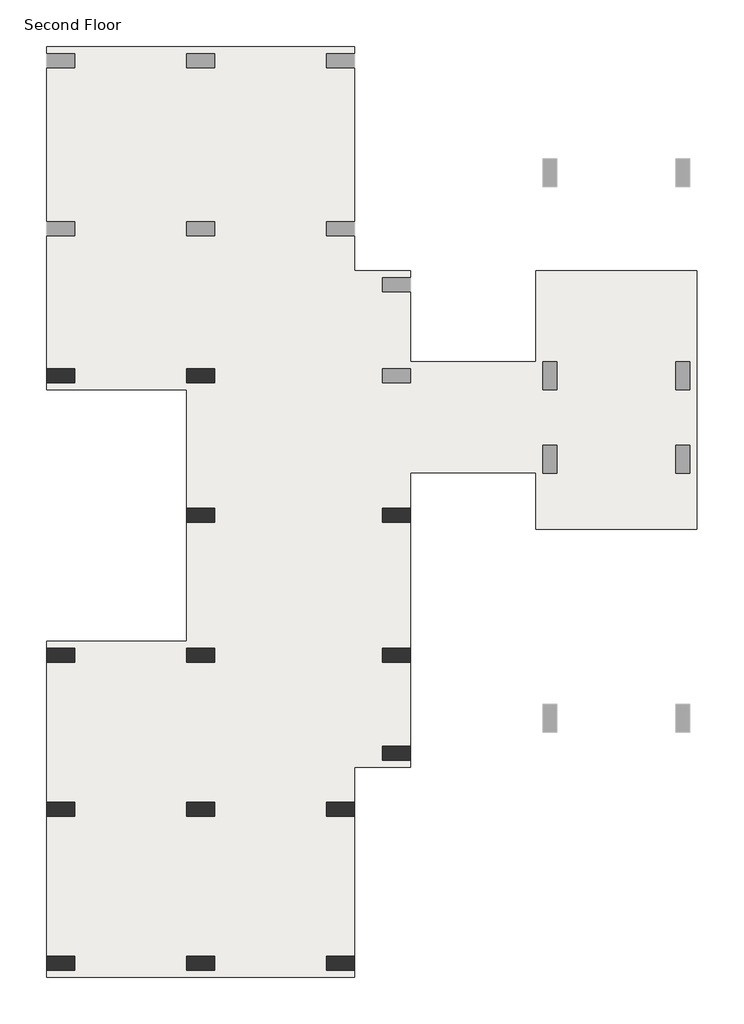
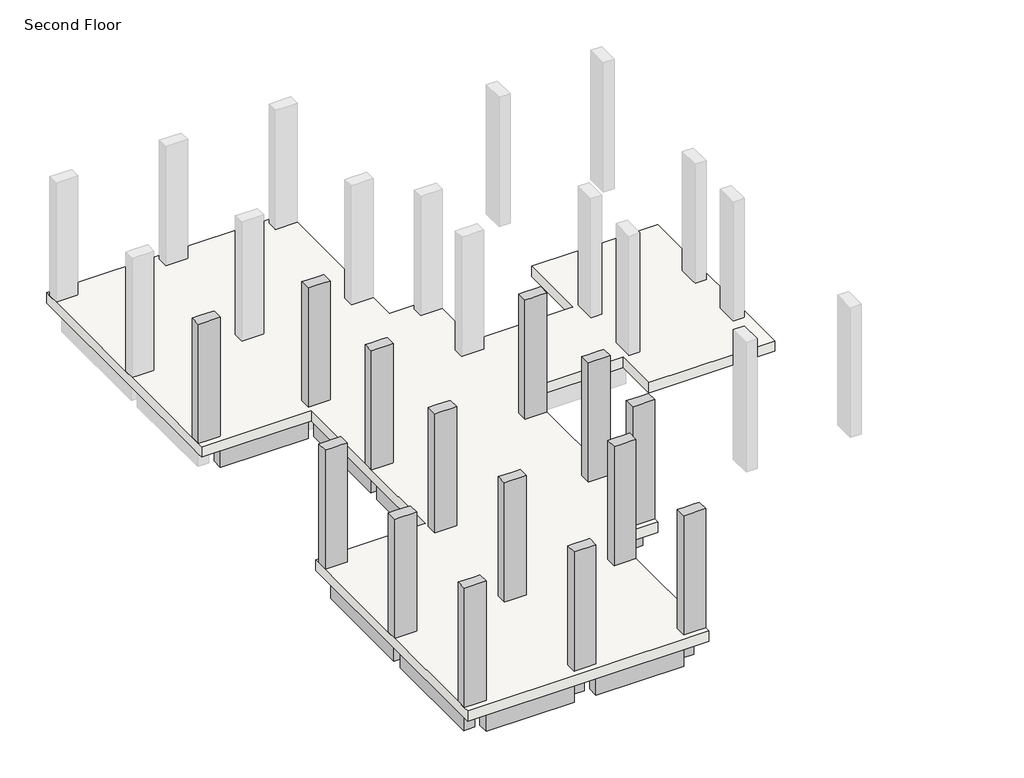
# One storey, part 1 of 2: 20 beams, 15 columns, 1 slab.
"""IFC4 building model written with IfcOpenShell, lengths in millimetres."""

import ifcopenshell
import ifcopenshell.guid

model = None  # the IFC model being written
_history = None  # IfcOwnerHistory: only IFC2X3 demands one
_inside = {}  # id of a spatial element -> (the spatial element, [elements in it])
_under = {}  # id of a project, library or spatial element -> (it, [spatial elements below it])
_declared = {}  # id of a project -> (the project, [libraries it declares])
_typed = {}  # id of a type object -> (the type object, [elements of that type])
_made_of = {}  # id of a material, layer set ... -> (it, [elements and type objects made of it])


def new_model(schema):
    """Start an empty IFC model of exactly this schema.

    Asked for "IFC4X3", IfcOpenShell would pick the latest addendum, in which some entities
    have other attributes; the version numbers below select the first issue.
    IFC2X3 requires an IfcOwnerHistory on every rooted entity: one is made here for all.
    """
    global model, _history
    if schema == "IFC4X3":
        model = ifcopenshell.file(schema_version=(4, 3, 0, 0))
    else:
        model = ifcopenshell.file(schema=schema)
    _inside.clear()
    _under.clear()
    _declared.clear()
    _typed.clear()
    _made_of.clear()
    _history = None
    if model.schema == "IFC2X3":
        org = make("IfcOrganization", Name="unknown")
        user = make(
            "IfcPersonAndOrganization",
            ThePerson=make("IfcPerson", FamilyName="unknown"),
            TheOrganization=org,
        )
        app = make(
            "IfcApplication",
            ApplicationDeveloper=org,
            Version="unknown",
            ApplicationFullName="unknown",
            ApplicationIdentifier="unknown",
        )
        _history = make(
            "IfcOwnerHistory",
            OwningUser=user,
            OwningApplication=app,
            ChangeAction="ADDED",
            CreationDate=0,
        )
    return model


def make(cls, **values):
    """One entity of the class cls with the attributes given. An attribute that is None is left unset."""
    return model.create_entity(
        cls, **{name: value for name, value in values.items() if value is not None}
    )


def rooted(cls, **values):
    """An entity with a GlobalId (a new one), such as an element, a storey or a relation."""
    return make(cls, GlobalId=ifcopenshell.guid.new(), OwnerHistory=_history, **values)


def si_unit(unit_type, name, prefix=None):
    """IfcSIUnit, for example si_unit("LENGTHUNIT", "METRE", prefix="MILLI")."""
    return make("IfcSIUnit", UnitType=unit_type, Prefix=prefix, Name=name)


def assignment(units):
    """IfcUnitAssignment: the units of a project."""
    return None if units is None else make("IfcUnitAssignment", Units=units)


def point(xyz):
    """IfcCartesianPoint."""
    return None if xyz is None else make("IfcCartesianPoint", Coordinates=xyz)


def direction(xyz):
    """IfcDirection."""
    return None if xyz is None else make("IfcDirection", DirectionRatios=xyz)


def frame(location, z_axis=None, x_axis=None):
    """IfcAxis2Placement3D, a coordinate frame: its origin and axes. An axis left out is left unset."""
    return make(
        "IfcAxis2Placement3D",
        Location=point(location),
        Axis=direction(z_axis),
        RefDirection=direction(x_axis),
    )


def origin():
    """The frame at (0, 0, 0) with its axes left unset."""
    return frame((0.0, 0.0, 0.0))


def place(relative_to, where):
    """IfcLocalPlacement: puts the frame where relative to a parent placement (None: the world)."""
    return make(
        "IfcLocalPlacement", PlacementRelTo=relative_to, RelativePlacement=where
    )


def context(
    kind, dimensions, precision=None, world=None, true_north=None, identifier=None
):
    """IfcGeometricRepresentationContext, for example the 3D "Model" context."""
    return make(
        "IfcGeometricRepresentationContext",
        ContextIdentifier=identifier,
        ContextType=kind,
        CoordinateSpaceDimension=dimensions,
        Precision=precision,
        WorldCoordinateSystem=world,
        TrueNorth=true_north,
    )


def project(units=None, contexts=None):
    """IfcProject with its units and contexts."""
    return rooted(
        "IfcProject",
        Name="project",
        RepresentationContexts=contexts,
        UnitsInContext=assignment(units),
    )


def spatial(cls, under=None, at=None, **own):
    """A site, building, storey or space (cls), placed at a placement, below another one or the project."""
    s = rooted(cls, ObjectPlacement=at, **own)
    if under is not None:
        _under.setdefault(under.id(), (under, []))[1].append(s)
    return s


def polyline(points):
    """IfcPolyline through the points."""
    return make("IfcPolyline", Points=[point(p) for p in points])


def outline(outer, holes=None, kind="AREA"):
    """IfcArbitraryClosedProfileDef: a profile drawn as a closed curve; with holes, ...WithVoids."""
    if holes is None:
        return make("IfcArbitraryClosedProfileDef", ProfileType=kind, OuterCurve=outer)
    return make(
        "IfcArbitraryProfileDefWithVoids",
        ProfileType=kind,
        OuterCurve=outer,
        InnerCurves=holes,
    )


def extrude(swept, where, along, depth):
    """IfcExtrudedAreaSolid: the profile swept, set in the frame where, extruded along a direction by depth."""
    return make(
        "IfcExtrudedAreaSolid",
        SweptArea=swept,
        Position=where,
        ExtrudedDirection=direction(along),
        Depth=depth,
    )


def faces_of(points, faces, orient=None, outer=None):
    """IfcFace entities. A face is a list of loops; a loop is a list of indices into points, from 0.

    orient and outer hold one flag for each loop. By default every Orientation is true, the
    first loop of a face is its IfcFaceOuterBound and the others are IfcFaceBound.
    """
    made = []
    for i, loops in enumerate(faces):
        bounds = []
        for j, loop in enumerate(loops):
            is_outer = j == 0 if outer is None else outer[i][j]
            bounds.append(
                make(
                    "IfcFaceOuterBound" if is_outer else "IfcFaceBound",
                    Bound=make("IfcPolyLoop", Polygon=[points[k] for k in loop]),
                    Orientation=True if orient is None else orient[i][j],
                )
            )
        made.append(make("IfcFace", Bounds=bounds))
    return made


def faceted_brep(points, faces, orient=None, outer=None, voids=None):
    """IfcFacetedBrep: a solid bounded by flat faces; with voids (closed shells), ...WithVoids."""
    shared = [point(p) for p in points]
    hull = make("IfcClosedShell", CfsFaces=faces_of(shared, faces, orient, outer))
    if voids is None:
        return make("IfcFacetedBrep", Outer=hull)
    return make(
        "IfcFacetedBrepWithVoids",
        Outer=hull,
        Voids=[
            make(cls, CfsFaces=faces_of(shared, fs, o, b)) for cls, fs, o, b in voids
        ],
    )


def shape(context_of_items, identifier, shape_type, items):
    """IfcShapeRepresentation: the items that make up one representation, for example the "Body"."""
    return make(
        "IfcShapeRepresentation",
        ContextOfItems=context_of_items,
        RepresentationIdentifier=identifier,
        RepresentationType=shape_type,
        Items=items,
    )


def made_of(thing, what):
    """Note that an element or type object is made of a material, layer set ...; save() writes the relation."""
    if what is not None:
        _made_of.setdefault(what.id(), (what, []))[1].append(thing)
    return thing


def element(
    cls,
    number,
    at=None,
    inside=None,
    cuts=None,
    type_object=None,
    material=None,
    context=None,
    identifier="Body",
    shape_type=None,
    held_by="IfcProductDefinitionShape",
    body=None,
    shapes=None,
    **own,
):
    """One element of the class cls, such as IfcWall. Its Tag is "e" and its number.

    at: its placement. inside: the storey or other place that contains it. cuts: it is an
    opening in that element (IfcRelVoidsElement). A single representation is given by context,
    identifier, shape_type and body (its items); several are given by shapes. held_by: the class
    of the entity that holds the representations. save() writes the other relations.
    """
    e = rooted(cls, Tag="e%d" % number, ObjectPlacement=at, **own)
    if body is not None:
        shapes = [shape(context, identifier, shape_type, body)]
    if shapes is not None:
        e.Representation = make(held_by, Representations=shapes)
    if inside is not None:
        _inside.setdefault(inside.id(), (inside, []))[1].append(e)
    if cuts is not None:
        rooted(
            "IfcRelVoidsElement", RelatingBuildingElement=cuts, RelatedOpeningElement=e
        )
    if type_object is not None:
        _typed.setdefault(type_object.id(), (type_object, []))[1].append(e)
    return made_of(e, material)


def aggregate(whole, parts):
    """IfcRelAggregates: a whole, such as a stair, and the parts it consists of."""
    return rooted("IfcRelAggregates", RelatingObject=whole, RelatedObjects=parts)


def save(model, path):
    """Write the relations noted so far, then the file.

    IfcRelAggregates (storeys below a building ...), IfcRelContainedInSpatialStructure (elements
    in a storey), IfcRelDefinesByType, IfcRelAssociatesMaterial and IfcRelDeclares: one each for
    every whole, place, type object, material and project.
    """
    for whole, parts in _under.values():
        aggregate(whole, parts)
    for where, things in _inside.values():
        rooted(
            "IfcRelContainedInSpatialStructure",
            RelatedElements=things,
            RelatingStructure=where,
        )
    for kind, things in _typed.values():
        rooted("IfcRelDefinesByType", RelatedObjects=things, RelatingType=kind)
    for what, things in _made_of.values():
        rooted("IfcRelAssociatesMaterial", RelatedObjects=things, RelatingMaterial=what)
    for by, libraries in _declared.values():
        rooted("IfcRelDeclares", RelatingContext=by, RelatedDefinitions=libraries)
    model.write(path)


model = new_model("IFC4")

# Units and contexts
model_context = context("Model", 3, world=origin())
ifc_project = project(units=[si_unit("LENGTHUNIT", "METRE", prefix="MILLI")], contexts=[model_context])

# Site, building, storey
site = spatial("IfcSite", under=ifc_project)
building = spatial("IfcBuilding", under=site)
storey = spatial("IfcBuildingStorey", under=building, Name="Second Floor", Elevation=3810.0)

# Beams
placement = place(None, origin())
element("IfcBeam", 1, ObjectType="Concrete-Rectangular Beam : 12 x 24", at=placement, inside=storey, context=model_context, shape_type="SweptSolid", body=[
    extrude(outline(polyline([(-8209.9554735, 4436.1867088), (-7905.1554735, 4436.1867088), (-7905.1554735, 1692.9867088), (-8209.9554735, 1692.9867088), (-8209.9554735, 4436.1867088)])), frame((0.0, 0.0, 2895.6), z_axis=(0.0, 0.0, 1.0), x_axis=(1.0, 0.0, 0.0)), (0.0, 0.0, 1.0), 609.6),
])
element("IfcBeam", 2, ObjectType="Concrete-Rectangular Beam : 12 x 24", at=placement, inside=storey, context=model_context, shape_type="SweptSolid", body=[
    extrude(outline(polyline([(-8209.9554735, 1388.1867088), (-7905.1554735, 1388.1867088), (-7905.1554735, -440.6132912), (-8209.9554735, -440.6132912), (-8209.9554735, 1388.1867088)])), frame((0.0, 0.0, 2895.6), z_axis=(0.0, 0.0, 1.0), x_axis=(1.0, 0.0, 0.0)), (0.0, 0.0, 1.0), 609.6),
])
element("IfcBeam", 3, ObjectType="Concrete-Rectangular Beam : 12 x 24", at=placement, inside=storey, context=model_context, shape_type="Brep", body=[
    faceted_brep([(-9429.1554735, -440.6132912, 3505.2), (-9429.1554735, -745.4132912, 3505.2), (-9124.3554735, -745.4132912, 3505.2), (-8362.3554735, -745.4132912, 3505.2), (-8362.3554735, -440.6132912, 3505.2), (-9429.1554735, -440.6132912, 2895.6), (-8362.3554735, -440.6132912, 2895.6), (-9429.1554735, -745.4132912, 2895.6), (-8362.3554735, -745.4132912, 2895.6), (-9124.3554735, -745.4132912, 2895.6)], [[[0, 1, 2, 3, 4]], [[5, 0, 4, 6]], [[7, 5, 6, 8, 9]], [[1, 7, 9, 8, 3, 2]], [[4, 3, 8, 6]], [[1, 0, 5, 7]]]),
])
element("IfcBeam", 4, ObjectType="Concrete-Rectangular Beam : 12 x 24", at=placement, inside=storey, context=model_context, shape_type="SweptSolid", body=[
    extrude(outline(polyline([(-9429.1554735, -745.4132912), (-9124.3554735, -745.4132912), (-9124.3554735, -1659.8132912), (-9429.1554735, -1659.8132912), (-9429.1554735, -745.4132912)])), frame((0.0, 0.0, 2895.6), z_axis=(0.0, 0.0, 1.0), x_axis=(1.0, 0.0, 0.0)), (0.0, 0.0, 1.0), 609.6),
])
element("IfcBeam", 5, ObjectType="Concrete-Rectangular Beam : 12 x 24", at=placement, inside=storey, context=model_context, shape_type="SweptSolid", body=[
    extrude(outline(polyline([(-9429.1554735, -1964.6132912), (-9124.3554735, -1964.6132912), (-9124.3554735, -5012.6132912), (-9429.1554735, -5012.6132912), (-9429.1554735, -1964.6132912)])), frame((0.0, 0.0, 2895.6), z_axis=(0.0, 0.0, 1.0), x_axis=(1.0, 0.0, 0.0)), (0.0, 0.0, 1.0), 609.6),
])
element("IfcBeam", 6, ObjectType="Concrete-Rectangular Beam : 12 x 24", at=placement, inside=storey, context=model_context, shape_type="SweptSolid", body=[
    extrude(outline(polyline([(-12019.9554735, -5317.4132912), (-12019.9554735, -5012.6132912), (-9581.5554735, -5012.6132912), (-9581.5554735, -5317.4132912), (-12019.9554735, -5317.4132912)])), frame((0.0, 0.0, 2895.6), z_axis=(0.0, 0.0, 1.0), x_axis=(1.0, 0.0, 0.0)), (0.0, 0.0, 1.0), 609.6),
])
element("IfcBeam", 7, ObjectType="Concrete-Rectangular Beam : 12 x 24", at=placement, inside=storey, context=model_context, shape_type="SweptSolid", body=[
    extrude(outline(polyline([(-12629.5554735, -5012.6132912), (-12629.5554735, -5317.4132912), (-15067.9554735, -5317.4132912), (-15067.9554735, -5012.6132912), (-12629.5554735, -5012.6132912)])), frame((0.0, 0.0, 2895.6), z_axis=(0.0, 0.0, 1.0), x_axis=(1.0, 0.0, 0.0)), (0.0, 0.0, 1.0), 609.6),
])
element("IfcBeam", 8, ObjectType="Concrete-Rectangular Beam : 12 x 24", at=placement, inside=storey, context=model_context, shape_type="SweptSolid", body=[
    extrude(outline(polyline([(-15220.3554735, -5012.6132912), (-15525.1554735, -5012.6132912), (-15525.1554735, -1964.6132912), (-15220.3554735, -1964.6132912), (-15220.3554735, -5012.6132912)])), frame((0.0, 0.0, 2895.6), z_axis=(0.0, 0.0, 1.0), x_axis=(1.0, 0.0, 0.0)), (0.0, 0.0, 1.0), 609.6),
])
element("IfcBeam", 9, ObjectType="Concrete-Rectangular Beam : 12 x 24", at=placement, inside=storey, context=model_context, shape_type="SweptSolid", body=[
    extrude(outline(polyline([(-15220.3554735, -1659.8132912), (-15525.1554735, -1659.8132912), (-15525.1554735, 1388.1867088), (-15220.3554735, 1388.1867088), (-15220.3554735, -1659.8132912)])), frame((0.0, 0.0, 2895.6), z_axis=(0.0, 0.0, 1.0), x_axis=(1.0, 0.0, 0.0)), (0.0, 0.0, 1.0), 609.6),
])
element("IfcBeam", 10, ObjectType="Concrete-Rectangular Beam : 12 x 24", at=placement, inside=storey, context=model_context, shape_type="SweptSolid", body=[
    extrude(outline(polyline([(-12477.1554735, 7484.1867088), (-12172.3554735, 7484.1867088), (-12172.3554735, 4740.9867088), (-12477.1554735, 4740.9867088), (-12477.1554735, 7484.1867088)])), frame((0.0, 0.0, 2895.6), z_axis=(0.0, 0.0, 1.0), x_axis=(1.0, 0.0, 0.0)), (0.0, 0.0, 1.0), 609.6),
])
element("IfcBeam", 11, ObjectType="Concrete-Rectangular Beam : 12 x 24", at=placement, inside=storey, context=model_context, shape_type="SweptSolid", body=[
    extrude(outline(polyline([(-12477.1554735, 4436.1867088), (-12172.3554735, 4436.1867088), (-12172.3554735, 1692.9867088), (-12477.1554735, 1692.9867088), (-12477.1554735, 4436.1867088)])), frame((0.0, 0.0, 2895.6), z_axis=(0.0, 0.0, 1.0), x_axis=(1.0, 0.0, 0.0)), (0.0, 0.0, 1.0), 609.6),
])
element("IfcBeam", 12, ObjectType="Concrete-Rectangular Beam : 12 x 24", at=placement, inside=storey, context=model_context, shape_type="SweptSolid", body=[
    extrude(outline(polyline([(-12477.1554735, 1388.1867088), (-12172.3554735, 1388.1867088), (-12172.3554735, -1659.8132912), (-12477.1554735, -1659.8132912), (-12477.1554735, 1388.1867088)])), frame((0.0, 0.0, 2895.6), z_axis=(0.0, 0.0, 1.0), x_axis=(1.0, 0.0, 0.0)), (0.0, 0.0, 1.0), 609.6),
])
element("IfcBeam", 13, ObjectType="Concrete-Rectangular Beam : 12 x 24", at=placement, inside=storey, context=model_context, shape_type="SweptSolid", body=[
    extrude(outline(polyline([(-12172.3554735, -5012.6132912), (-12477.1554735, -5012.6132912), (-12477.1554735, -1964.6132912), (-12172.3554735, -1964.6132912), (-12172.3554735, -5012.6132912)])), frame((0.0, 0.0, 2895.6), z_axis=(0.0, 0.0, 1.0), x_axis=(1.0, 0.0, 0.0)), (0.0, 0.0, 1.0), 609.6),
])
element("IfcBeam", 14, ObjectType="Concrete-Rectangular Beam : 12 x 24", at=placement, inside=storey, context=model_context, shape_type="SweptSolid", body=[
    extrude(outline(polyline([(-15067.9554735, 7484.1867088), (-15067.9554735, 7788.9867088), (-12629.5554735, 7788.9867088), (-12629.5554735, 7484.1867088), (-15067.9554735, 7484.1867088)])), frame((0.0, 0.0, 2895.6), z_axis=(0.0, 0.0, 1.0), x_axis=(1.0, 0.0, 0.0)), (0.0, 0.0, 1.0), 609.6),
])
element("IfcBeam", 15, ObjectType="Concrete-Rectangular Beam : 12 x 24", at=placement, inside=storey, context=model_context, shape_type="SweptSolid", body=[
    extrude(outline(polyline([(-12019.9554735, 1388.1867088), (-12019.9554735, 1692.9867088), (-8362.3554735, 1692.9867088), (-8362.3554735, 1388.1867088), (-12019.9554735, 1388.1867088)])), frame((0.0, 0.0, 2895.6), z_axis=(0.0, 0.0, 1.0), x_axis=(1.0, 0.0, 0.0)), (0.0, 0.0, 1.0), 609.6),
])
element("IfcBeam", 16, ObjectType="Concrete-Rectangular Beam : 12 x 24", at=placement, inside=storey, context=model_context, shape_type="SweptSolid", body=[
    extrude(outline(polyline([(-12629.5554735, -1659.8132912), (-12629.5554735, -1964.6132912), (-15067.9554735, -1964.6132912), (-15067.9554735, -1659.8132912), (-12629.5554735, -1659.8132912)])), frame((0.0, 0.0, 2895.6), z_axis=(0.0, 0.0, 1.0), x_axis=(1.0, 0.0, 0.0)), (0.0, 0.0, 1.0), 609.6),
])
element("IfcBeam", 17, ObjectType="Concrete-Rectangular Beam : 12 x 24", at=placement, inside=storey, context=model_context, shape_type="SweptSolid", body=[
    extrude(outline(polyline([(-12629.5554735, 1692.9867088), (-12629.5554735, 1388.1867088), (-15067.9554735, 1388.1867088), (-15067.9554735, 1692.9867088), (-12629.5554735, 1692.9867088)])), frame((0.0, 0.0, 2895.6), z_axis=(0.0, 0.0, 1.0), x_axis=(1.0, 0.0, 0.0)), (0.0, 0.0, 1.0), 609.6),
])
element("IfcBeam", 18, ObjectType="Concrete-Rectangular Beam : 12 x 24", at=placement, inside=storey, context=model_context, shape_type="SweptSolid", body=[
    extrude(outline(polyline([(-12019.9554735, -1964.6132912), (-12019.9554735, -1659.8132912), (-9581.5554735, -1659.8132912), (-9581.5554735, -1964.6132912), (-12019.9554735, -1964.6132912)])), frame((0.0, 0.0, 2895.6), z_axis=(0.0, 0.0, 1.0), x_axis=(1.0, 0.0, 0.0)), (0.0, 0.0, 1.0), 609.6),
])
element("IfcBeam", 19, ObjectType="Concrete-Rectangular Beam : 12 x 24", at=placement, inside=storey, context=model_context, shape_type="SweptSolid", body=[
    extrude(outline(polyline([(-8362.3554735, 7788.9867088), (-8362.3554735, 7484.1867088), (-12019.9554735, 7484.1867088), (-12019.9554735, 7788.9867088), (-8362.3554735, 7788.9867088)])), frame((0.0, 0.0, 2895.6), z_axis=(0.0, 0.0, 1.0), x_axis=(1.0, 0.0, 0.0)), (0.0, 0.0, 1.0), 609.6),
])
element("IfcBeam", 20, ObjectType="Concrete-Rectangular Beam : 12 x 24", at=placement, inside=storey, context=model_context, shape_type="SweptSolid", body=[
    extrude(outline(polyline([(-12019.9554735, 4436.1867088), (-12019.9554735, 4740.9867088), (-8362.3554735, 4740.9867088), (-8362.3554735, 4436.1867088), (-12019.9554735, 4436.1867088)])), frame((0.0, 0.0, 2895.6), z_axis=(0.0, 0.0, 1.0), x_axis=(1.0, 0.0, 0.0)), (0.0, 0.0, 1.0), 609.6),
])

# Columns
element("IfcColumn", 21, ObjectType="Concrete-Rectangular-Column : 12 x 24", at=placement, inside=storey, context=model_context, shape_type="Brep", body=[
    faceted_brep([(-15677.5554735, 7788.9867088, 3810.0), (-15067.9554735, 7788.9867088, 3810.0), (-15067.9554735, 7484.1867088, 3810.0), (-15677.5554735, 7484.1867088, 3810.0), (-15677.5554735, 7788.9867088, 7315.2), (-15525.1554735, 7788.9867088, 7315.2), (-15220.3554735, 7788.9867088, 7315.2), (-15067.9554735, 7788.9867088, 7315.2), (-15067.9554735, 7788.9867088, 6705.6), (-15067.9554735, 7484.1867088, 7315.2), (-15067.9554735, 7484.1867088, 6705.6), (-15677.5554735, 7484.1867088, 7315.2)], [[[0, 1, 2, 3]], [[4, 5, 6, 7, 8, 1, 0]], [[7, 9, 10, 2, 1, 8]], [[9, 11, 3, 2, 10]], [[11, 4, 0, 3]], [[4, 11, 9, 7, 6, 5]]]),
])
element("IfcColumn", 22, ObjectType="Concrete-Rectangular-Column : 12 x 24", at=placement, inside=storey, context=model_context, shape_type="Brep", body=[
    faceted_brep([(-12629.5554735, 7788.9867088, 3810.0), (-12019.9554735, 7788.9867088, 3810.0), (-12019.9554735, 7484.1867088, 3810.0), (-12629.5554735, 7484.1867088, 3810.0), (-12629.5554735, 7788.9867088, 7315.2), (-12477.1554735, 7788.9867088, 7315.2), (-12172.3554735, 7788.9867088, 7315.2), (-12019.9554735, 7788.9867088, 7315.2), (-12019.9554735, 7788.9867088, 6705.6), (-12629.5554735, 7788.9867088, 6705.6), (-12019.9554735, 7484.1867088, 7315.2), (-12019.9554735, 7484.1867088, 6705.6), (-12172.3554735, 7484.1867088, 7315.2), (-12477.1554735, 7484.1867088, 7315.2), (-12629.5554735, 7484.1867088, 7315.2), (-12629.5554735, 7484.1867088, 6705.6)], [[[0, 1, 2, 3]], [[4, 5, 6, 7, 8, 1, 0, 9]], [[7, 10, 11, 2, 1, 8]], [[10, 12, 13, 14, 15, 3, 2, 11]], [[14, 4, 9, 0, 3, 15]], [[4, 14, 13, 12, 10, 7, 6, 5]]]),
])
element("IfcColumn", 23, ObjectType="Concrete-Rectangular-Column : 12 x 24", at=placement, inside=storey, context=model_context, shape_type="Brep", body=[
    faceted_brep([(-12629.5554735, 4740.9867088, 3810.0), (-12019.9554735, 4740.9867088, 3810.0), (-12019.9554735, 4436.1867088, 3810.0), (-12629.5554735, 4436.1867088, 3810.0), (-12629.5554735, 4740.9867088, 7315.2), (-12477.1554735, 4740.9867088, 7315.2), (-12172.3554735, 4740.9867088, 7315.2), (-12019.9554735, 4740.9867088, 7315.2), (-12019.9554735, 4740.9867088, 6705.6), (-12019.9554735, 4436.1867088, 7315.2), (-12019.9554735, 4436.1867088, 6705.6), (-12172.3554735, 4436.1867088, 7315.2), (-12477.1554735, 4436.1867088, 7315.2), (-12629.5554735, 4436.1867088, 7315.2)], [[[0, 1, 2, 3]], [[4, 5, 6, 7, 8, 1, 0]], [[7, 9, 10, 2, 1, 8]], [[9, 11, 12, 13, 3, 2, 10]], [[13, 4, 0, 3]], [[4, 13, 12, 11, 9, 7, 6, 5]]]),
])
element("IfcColumn", 24, ObjectType="Concrete-Rectangular-Column : 12 x 24", at=placement, inside=storey, context=model_context, shape_type="Brep", body=[
    faceted_brep([(-12629.5554735, 1692.9867088, 3810.0), (-12019.9554735, 1692.9867088, 3810.0), (-12019.9554735, 1388.1867088, 3810.0), (-12629.5554735, 1388.1867088, 3810.0), (-12629.5554735, 1692.9867088, 7315.2), (-12477.1554735, 1692.9867088, 7315.2), (-12172.3554735, 1692.9867088, 7315.2), (-12019.9554735, 1692.9867088, 7315.2), (-12019.9554735, 1692.9867088, 6705.6), (-12629.5554735, 1692.9867088, 6705.6), (-12019.9554735, 1388.1867088, 7315.2), (-12019.9554735, 1388.1867088, 6705.6), (-12172.3554735, 1388.1867088, 7315.2), (-12477.1554735, 1388.1867088, 7315.2), (-12629.5554735, 1388.1867088, 7315.2), (-12629.5554735, 1388.1867088, 6705.6)], [[[0, 1, 2, 3]], [[4, 5, 6, 7, 8, 1, 0, 9]], [[7, 10, 11, 2, 1, 8]], [[10, 12, 13, 14, 15, 3, 2, 11]], [[14, 4, 9, 0, 3, 15]], [[4, 14, 13, 12, 10, 7, 6, 5]]]),
])
element("IfcColumn", 25, ObjectType="Concrete-Rectangular-Column : 12 x 24", at=placement, inside=storey, context=model_context, shape_type="Brep", body=[
    faceted_brep([(-12629.5554735, -1659.8132912, 3810.0), (-12019.9554735, -1659.8132912, 3810.0), (-12019.9554735, -1964.6132912, 3810.0), (-12629.5554735, -1964.6132912, 3810.0), (-12629.5554735, -1659.8132912, 7315.2), (-12477.1554735, -1659.8132912, 7315.2), (-12172.3554735, -1659.8132912, 7315.2), (-12019.9554735, -1659.8132912, 7315.2), (-12019.9554735, -1659.8132912, 6705.6), (-12629.5554735, -1659.8132912, 6705.6), (-12019.9554735, -1964.6132912, 7315.2), (-12019.9554735, -1964.6132912, 6705.6), (-12172.3554735, -1964.6132912, 7315.2), (-12477.1554735, -1964.6132912, 7315.2), (-12629.5554735, -1964.6132912, 7315.2), (-12629.5554735, -1964.6132912, 6705.6)], [[[0, 1, 2, 3]], [[4, 5, 6, 7, 8, 1, 0, 9]], [[7, 10, 11, 2, 1, 8]], [[10, 12, 13, 14, 15, 3, 2, 11]], [[14, 4, 9, 0, 3, 15]], [[4, 14, 13, 12, 10, 7, 6, 5]]]),
])
element("IfcColumn", 26, ObjectType="Concrete-Rectangular-Column : 12 x 24", at=placement, inside=storey, context=model_context, shape_type="Brep", body=[
    faceted_brep([(-12629.5554735, -5012.6132912, 3810.0), (-12019.9554735, -5012.6132912, 3810.0), (-12019.9554735, -5317.4132912, 3810.0), (-12629.5554735, -5317.4132912, 3810.0), (-12629.5554735, -5012.6132912, 7315.2), (-12477.1554735, -5012.6132912, 7315.2), (-12172.3554735, -5012.6132912, 7315.2), (-12019.9554735, -5012.6132912, 7315.2), (-12019.9554735, -5012.6132912, 6705.6), (-12629.5554735, -5012.6132912, 6705.6), (-12019.9554735, -5317.4132912, 7315.2), (-12019.9554735, -5317.4132912, 6705.6), (-12629.5554735, -5317.4132912, 7315.2), (-12629.5554735, -5317.4132912, 6705.6)], [[[0, 1, 2, 3]], [[4, 5, 6, 7, 8, 1, 0, 9]], [[7, 10, 11, 2, 1, 8]], [[10, 12, 13, 3, 2, 11]], [[12, 4, 9, 0, 3, 13]], [[4, 12, 10, 7, 6, 5]]]),
])
element("IfcColumn", 27, ObjectType="Concrete-Rectangular-Column : 12 x 24", at=placement, inside=storey, context=model_context, shape_type="Brep", body=[
    faceted_brep([(-15677.5554735, -1659.8132912, 3810.0), (-15067.9554735, -1659.8132912, 3810.0), (-15067.9554735, -1964.6132912, 3810.0), (-15677.5554735, -1964.6132912, 3810.0), (-15677.5554735, -1659.8132912, 7315.2), (-15525.1554735, -1659.8132912, 7315.2), (-15220.3554735, -1659.8132912, 7315.2), (-15067.9554735, -1659.8132912, 7315.2), (-15067.9554735, -1659.8132912, 6705.6), (-15067.9554735, -1964.6132912, 7315.2), (-15067.9554735, -1964.6132912, 6705.6), (-15220.3554735, -1964.6132912, 7315.2), (-15525.1554735, -1964.6132912, 7315.2), (-15677.5554735, -1964.6132912, 7315.2)], [[[0, 1, 2, 3]], [[4, 5, 6, 7, 8, 1, 0]], [[7, 9, 10, 2, 1, 8]], [[9, 11, 12, 13, 3, 2, 10]], [[13, 4, 0, 3]], [[4, 13, 12, 11, 9, 7, 6, 5]]]),
])
element("IfcColumn", 28, ObjectType="Concrete-Rectangular-Column : 12 x 24", at=placement, inside=storey, context=model_context, shape_type="Brep", body=[
    faceted_brep([(-15677.5554735, -5012.6132912, 3810.0), (-15067.9554735, -5012.6132912, 3810.0), (-15067.9554735, -5317.4132912, 3810.0), (-15677.5554735, -5317.4132912, 3810.0), (-15677.5554735, -5012.6132912, 7315.2), (-15525.1554735, -5012.6132912, 7315.2), (-15220.3554735, -5012.6132912, 7315.2), (-15067.9554735, -5012.6132912, 7315.2), (-15067.9554735, -5012.6132912, 6705.6), (-15067.9554735, -5317.4132912, 7315.2), (-15067.9554735, -5317.4132912, 6705.6), (-15677.5554735, -5317.4132912, 7315.2)], [[[0, 1, 2, 3]], [[4, 5, 6, 7, 8, 1, 0]], [[7, 9, 10, 2, 1, 8]], [[9, 11, 3, 2, 10]], [[11, 4, 0, 3]], [[4, 11, 9, 7, 6, 5]]]),
])
element("IfcColumn", 29, ObjectType="Concrete-Rectangular-Column : 12 x 24", at=placement, inside=storey, context=model_context, shape_type="Brep", body=[
    faceted_brep([(-15677.5554735, 1692.9867088, 3810.0), (-15067.9554735, 1692.9867088, 3810.0), (-15067.9554735, 1388.1867088, 3810.0), (-15677.5554735, 1388.1867088, 3810.0), (-15677.5554735, 1692.9867088, 7315.2), (-15067.9554735, 1692.9867088, 7315.2), (-15067.9554735, 1692.9867088, 6705.6), (-15067.9554735, 1388.1867088, 7315.2), (-15067.9554735, 1388.1867088, 6705.6), (-15220.3554735, 1388.1867088, 7315.2), (-15525.1554735, 1388.1867088, 7315.2), (-15677.5554735, 1388.1867088, 7315.2)], [[[0, 1, 2, 3]], [[4, 5, 6, 1, 0]], [[5, 7, 8, 2, 1, 6]], [[7, 9, 10, 11, 3, 2, 8]], [[11, 4, 0, 3]], [[4, 11, 10, 9, 7, 5]]]),
])
element("IfcColumn", 30, ObjectType="Concrete-Rectangular-Column : 12 x 24", at=placement, inside=storey, context=model_context, shape_type="Brep", body=[
    faceted_brep([(-8362.3554735, 4740.9867088, 3810.0), (-7752.7554735, 4740.9867088, 3810.0), (-7752.7554735, 4436.1867088, 3810.0), (-8362.3554735, 4436.1867088, 3810.0), (-8362.3554735, 4740.9867088, 7315.2), (-8209.9554735, 4740.9867088, 7315.2), (-7905.1554735, 4740.9867088, 7315.2), (-7752.7554735, 4740.9867088, 7315.2), (-8362.3554735, 4740.9867088, 6705.6), (-7752.7554735, 4436.1867088, 7315.2), (-7905.1554735, 4436.1867088, 7315.2), (-8209.9554735, 4436.1867088, 7315.2), (-8362.3554735, 4436.1867088, 7315.2), (-8362.3554735, 4436.1867088, 6705.6)], [[[0, 1, 2, 3]], [[4, 5, 6, 7, 1, 0, 8]], [[7, 9, 2, 1]], [[9, 10, 11, 12, 13, 3, 2]], [[12, 4, 8, 0, 3, 13]], [[4, 12, 11, 10, 9, 7, 6, 5]]]),
])
element("IfcColumn", 31, ObjectType="Concrete-Rectangular-Column : 12 x 24", at=placement, inside=storey, context=model_context, shape_type="Brep", body=[
    faceted_brep([(-8362.3554735, 1692.9867088, 3810.0), (-7752.7554735, 1692.9867088, 3810.0), (-7752.7554735, 1388.1867088, 3810.0), (-8362.3554735, 1388.1867088, 3810.0), (-8362.3554735, 1692.9867088, 7315.2), (-8209.9554735, 1692.9867088, 7315.2), (-7905.1554735, 1692.9867088, 7315.2), (-7752.7554735, 1692.9867088, 7315.2), (-8362.3554735, 1692.9867088, 6705.6), (-7752.7554735, 1388.1867088, 7315.2), (-7905.1554735, 1388.1867088, 7315.2), (-8209.9554735, 1388.1867088, 7315.2), (-8362.3554735, 1388.1867088, 7315.2), (-8362.3554735, 1388.1867088, 6705.6)], [[[0, 1, 2, 3]], [[4, 5, 6, 7, 1, 0, 8]], [[7, 9, 2, 1]], [[9, 10, 11, 12, 13, 3, 2]], [[12, 4, 8, 0, 3, 13]], [[4, 12, 11, 10, 9, 7, 6, 5]]]),
])
element("IfcColumn", 32, ObjectType="Concrete-Rectangular-Column : 12 x 24", at=placement, inside=storey, context=model_context, shape_type="Brep", body=[
    faceted_brep([(-9581.5554735, -1659.8132912, 3810.0), (-8971.9554735, -1659.8132912, 3810.0), (-8971.9554735, -1964.6132912, 3810.0), (-9581.5554735, -1964.6132912, 3810.0), (-9581.5554735, -1659.8132912, 7315.2), (-9429.1554735, -1659.8132912, 7315.2), (-9124.3554735, -1659.8132912, 7315.2), (-8971.9554735, -1659.8132912, 7315.2), (-9581.5554735, -1659.8132912, 6705.6), (-8971.9554735, -1964.6132912, 7315.2), (-9124.3554735, -1964.6132912, 7315.2), (-9429.1554735, -1964.6132912, 7315.2), (-9581.5554735, -1964.6132912, 7315.2), (-9581.5554735, -1964.6132912, 6705.6)], [[[0, 1, 2, 3]], [[4, 5, 6, 7, 1, 0, 8]], [[7, 9, 2, 1]], [[9, 10, 11, 12, 13, 3, 2]], [[12, 4, 8, 0, 3, 13]], [[4, 12, 11, 10, 9, 7, 6, 5]]]),
])
element("IfcColumn", 33, ObjectType="Concrete-Rectangular-Column : 12 x 24", at=placement, inside=storey, context=model_context, shape_type="Brep", body=[
    faceted_brep([(-9581.5554735, -5012.6132912, 3810.0), (-8971.9554735, -5012.6132912, 3810.0), (-8971.9554735, -5317.4132912, 3810.0), (-9581.5554735, -5317.4132912, 3810.0), (-9581.5554735, -5012.6132912, 7315.2), (-9429.1554735, -5012.6132912, 7315.2), (-9124.3554735, -5012.6132912, 7315.2), (-8971.9554735, -5012.6132912, 7315.2), (-9581.5554735, -5012.6132912, 6705.6), (-8971.9554735, -5317.4132912, 7315.2), (-9581.5554735, -5317.4132912, 7315.2), (-9581.5554735, -5317.4132912, 6705.6)], [[[0, 1, 2, 3]], [[4, 5, 6, 7, 1, 0, 8]], [[7, 9, 2, 1]], [[9, 10, 11, 3, 2]], [[10, 4, 8, 0, 3, 11]], [[4, 10, 9, 7, 6, 5]]]),
])
element("IfcColumn", 34, ObjectType="Concrete-Rectangular-Column : 12 x 24", at=placement, inside=storey, context=model_context, shape_type="Brep", body=[
    faceted_brep([(-8362.3554735, -440.6132912, 3810.0), (-7752.7554735, -440.6132912, 3810.0), (-7752.7554735, -745.4132912, 3810.0), (-8362.3554735, -745.4132912, 3810.0), (-8362.3554735, -440.6132912, 7315.2), (-8209.9554735, -440.6132912, 7315.2), (-7905.1554735, -440.6132912, 7315.2), (-7752.7554735, -440.6132912, 7315.2), (-8362.3554735, -440.6132912, 6705.6), (-7752.7554735, -745.4132912, 7315.2), (-8362.3554735, -745.4132912, 7315.2), (-8362.3554735, -745.4132912, 6705.6)], [[[0, 1, 2, 3]], [[4, 5, 6, 7, 1, 0, 8]], [[7, 9, 2, 1]], [[9, 10, 11, 3, 2]], [[10, 4, 8, 0, 3, 11]], [[4, 10, 9, 7, 6, 5]]]),
])
element("IfcColumn", 35, ObjectType="Concrete-Rectangular-Column : 12 x 24", at=placement, inside=storey, context=model_context, shape_type="Brep", body=[
    faceted_brep([(-12629.5554735, 7788.9867088, 3810.0), (-12019.9554735, 7788.9867088, 3810.0), (-12019.9554735, 7484.1867088, 3810.0), (-12629.5554735, 7484.1867088, 3810.0), (-12629.5554735, 7788.9867088, 7315.2), (-12477.1554735, 7788.9867088, 7315.2), (-12172.3554735, 7788.9867088, 7315.2), (-12019.9554735, 7788.9867088, 7315.2), (-12019.9554735, 7788.9867088, 6705.6), (-12629.5554735, 7788.9867088, 6705.6), (-12019.9554735, 7484.1867088, 7315.2), (-12019.9554735, 7484.1867088, 6705.6), (-12172.3554735, 7484.1867088, 7315.2), (-12477.1554735, 7484.1867088, 7315.2), (-12629.5554735, 7484.1867088, 7315.2), (-12629.5554735, 7484.1867088, 6705.6)], [[[0, 1, 2, 3]], [[4, 5, 6, 7, 8, 1, 0, 9]], [[7, 10, 11, 2, 1, 8]], [[10, 12, 13, 14, 15, 3, 2, 11]], [[14, 4, 9, 0, 3, 15]], [[4, 14, 13, 12, 10, 7, 6, 5]]]),
])

# Slab
element("IfcSlab", 36, ObjectType="Generic - 12\"", at=placement, inside=storey, context=model_context, shape_type="Brep", body=[
    faceted_brep([(-8971.9554735, 14799.3867088, 3505.2), (-8971.9554735, 14646.9867088, 3505.2), (-8971.9554735, 14342.1867088, 3505.2), (-8971.9554735, 10989.3867088, 3505.2), (-8971.9554735, 10684.5867088, 3505.2), (-8971.9554735, 9922.5867088, 3505.2), (-7752.7554735, 9922.5867088, 3505.2), (-7752.7554735, 9770.1867088, 3505.2), (-7752.7554735, 9465.3867088, 3505.2), (-7752.7554735, 7941.3867088, 3505.2), (-5009.5554735, 7941.3867088, 3505.2), (-5009.5554735, 9922.5867088, 3505.2), (-1504.3554735, 9922.5867088, 3505.2), (-1504.3554735, 4283.7867088, 3505.2), (-5009.5554735, 4283.7867088, 3505.2), (-5009.5554735, 5516.5265407, 3505.2), (-7752.7554735, 5516.5265407, 3505.2), (-7752.7554735, 4740.9867088, 3505.2), (-7752.7554735, 4436.1867088, 3505.2), (-7752.7554735, 1692.9867088, 3505.2), (-7752.7554735, 1388.1867088, 3505.2), (-7752.7554735, -440.6132912, 3505.2), (-7752.7554735, -745.4132912, 3505.2), (-7752.7554735, -897.8132912, 3505.2), (-8971.9554735, -897.8132912, 3505.2), (-8971.9554735, -1659.8132912, 3505.2), (-8971.9554735, -1964.6132912, 3505.2), (-8971.9554735, -5012.6132912, 3505.2), (-8971.9554735, -5317.4132912, 3505.2), (-8971.9554735, -5469.8132912, 3505.2), (-15677.5554735, -5469.8132912, 3505.2), (-15677.5554735, -5317.4132912, 3505.2), (-15677.5554735, -5012.6132912, 3505.2), (-15677.5554735, -1964.6132912, 3505.2), (-15677.5554735, -1659.8132912, 3505.2), (-15677.5554735, 1388.1867088, 3505.2), (-15677.5554735, 1692.9867088, 3505.2), (-15677.5554735, 1845.3867088, 3505.2), (-12629.5554735, 1845.3867088, 3505.2), (-12629.5554735, 4436.1867088, 3505.2), (-12629.5554735, 4740.9867088, 3505.2), (-12629.5554735, 7331.7867088, 3505.2), (-15677.5554735, 7331.7867088, 3505.2), (-15677.5554735, 7484.1867088, 3505.2), (-15677.5554735, 7788.9867088, 3505.2), (-15677.5554735, 10684.5867088, 3505.2), (-15677.5554735, 10989.3867088, 3505.2), (-15677.5554735, 14342.1867088, 3505.2), (-15677.5554735, 14646.9867088, 3505.2), (-15677.5554735, 14799.3867088, 3505.2), (-8971.9554735, 14799.3867088, 3810.0), (-15677.5554735, 14799.3867088, 3810.0), (-15677.5554735, 14646.9867088, 3810.0), (-15677.5554735, 14342.1867088, 3810.0), (-15677.5554735, 10989.3867088, 3810.0), (-15677.5554735, 10684.5867088, 3810.0), (-15677.5554735, 7788.9867088, 3810.0), (-15677.5554735, 7484.1867088, 3810.0), (-15677.5554735, 7331.7867088, 3810.0), (-12629.5554735, 7331.7867088, 3810.0), (-12629.5554735, 4740.9867088, 3810.0), (-12629.5554735, 4436.1867088, 3810.0), (-12629.5554735, 1845.3867088, 3810.0), (-15677.5554735, 1845.3867088, 3810.0), (-15677.5554735, 1692.9867088, 3810.0), (-15677.5554735, 1388.1867088, 3810.0), (-15677.5554735, -1659.8132912, 3810.0), (-15677.5554735, -1964.6132912, 3810.0), (-15677.5554735, -5012.6132912, 3810.0), (-15677.5554735, -5317.4132912, 3810.0), (-15677.5554735, -5469.8132912, 3810.0), (-8971.9554735, -5469.8132912, 3810.0), (-8971.9554735, -5317.4132912, 3810.0), (-8971.9554735, -5012.6132912, 3810.0), (-8971.9554735, -1964.6132912, 3810.0), (-8971.9554735, -1659.8132912, 3810.0), (-8971.9554735, -897.8132912, 3810.0), (-7752.7554735, -897.8132912, 3810.0), (-7752.7554735, -745.4132912, 3810.0), (-7752.7554735, -440.6132912, 3810.0), (-7752.7554735, 1388.1867088, 3810.0), (-7752.7554735, 1692.9867088, 3810.0), (-7752.7554735, 4436.1867088, 3810.0), (-7752.7554735, 4740.9867088, 3810.0), (-7752.7554735, 5516.5265407, 3810.0), (-5009.5554735, 5516.5265407, 3810.0), (-5009.5554735, 4283.7867088, 3810.0), (-1504.3554735, 4283.7867088, 3810.0), (-1504.3554735, 9922.5867088, 3810.0), (-5009.5554735, 9922.5867088, 3810.0), (-5009.5554735, 7941.3867088, 3810.0), (-7752.7554735, 7941.3867088, 3810.0), (-7752.7554735, 9465.3867088, 3810.0), (-7752.7554735, 9770.1867088, 3810.0), (-7752.7554735, 9922.5867088, 3810.0), (-8971.9554735, 9922.5867088, 3810.0), (-8971.9554735, 10684.5867088, 3810.0), (-8971.9554735, 10989.3867088, 3810.0), (-8971.9554735, 14342.1867088, 3810.0), (-8971.9554735, 14646.9867088, 3810.0)], [[[0, 1, 2, 3, 4, 5, 6, 7, 8, 9, 10, 11, 12, 13, 14, 15, 16, 17, 18, 19, 20, 21, 22, 23, 24, 25, 26, 27, 28, 29, 30, 31, 32, 33, 34, 35, 36, 37, 38, 39, 40, 41, 42, 43, 44, 45, 46, 47, 48, 49]], [[50, 51, 52, 53, 54, 55, 56, 57, 58, 59, 60, 61, 62, 63, 64, 65, 66, 67, 68, 69, 70, 71, 72, 73, 74, 75, 76, 77, 78, 79, 80, 81, 82, 83, 84, 85, 86, 87, 88, 89, 90, 91, 92, 93, 94, 95, 96, 97, 98, 99]], [[5, 4, 3, 2, 1, 0, 50, 99, 98, 97, 96, 95]], [[6, 5, 95, 94]], [[9, 8, 7, 6, 94, 93, 92, 91]], [[10, 9, 91, 90]], [[11, 10, 90, 89]], [[12, 11, 89, 88]], [[13, 12, 88, 87]], [[14, 13, 87, 86]], [[15, 14, 86, 85]], [[16, 15, 85, 84]], [[23, 22, 21, 20, 19, 18, 17, 16, 84, 83, 82, 81, 80, 79, 78, 77]], [[24, 23, 77, 76]], [[29, 28, 27, 26, 25, 24, 76, 75, 74, 73, 72, 71]], [[30, 29, 71, 70]], [[37, 36, 35, 34, 33, 32, 31, 30, 70, 69, 68, 67, 66, 65, 64, 63]], [[38, 37, 63, 62]], [[41, 40, 39, 38, 62, 61, 60, 59]], [[42, 41, 59, 58]], [[49, 48, 47, 46, 45, 44, 43, 42, 58, 57, 56, 55, 54, 53, 52, 51]], [[0, 49, 51, 50]]]),
])

save(model, "model.ifc")
